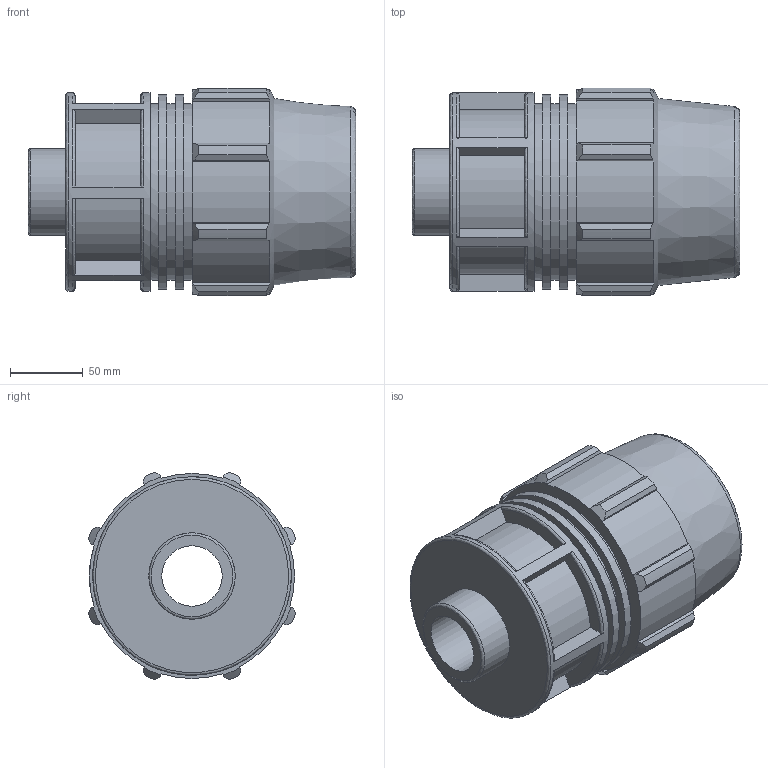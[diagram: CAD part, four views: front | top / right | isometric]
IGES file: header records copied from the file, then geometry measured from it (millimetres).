
Global section: file name: 870200090020_180200090020_840206090020.ipt; native system: Autodesk Inventor 2015; preprocessor: unknown; author: KIM; date: 20180325.201141; units: millimetre
Bounding box: 226 x 143.02 x 143.02 mm (x, y, z)
Volume: 1517561.8 mm3; surface area: 199207.3 mm2
Topology: 1 solids, 1 shells, 125 faces, 333 edges, 224 vertices
Faces by surface type: plane 67, cylinder 29, revolution 19, cone 10
Full cylindrical faces by diameter (mm): 59.614 x1, 121.6 x3, 134.064 x2, 136.8 x1
